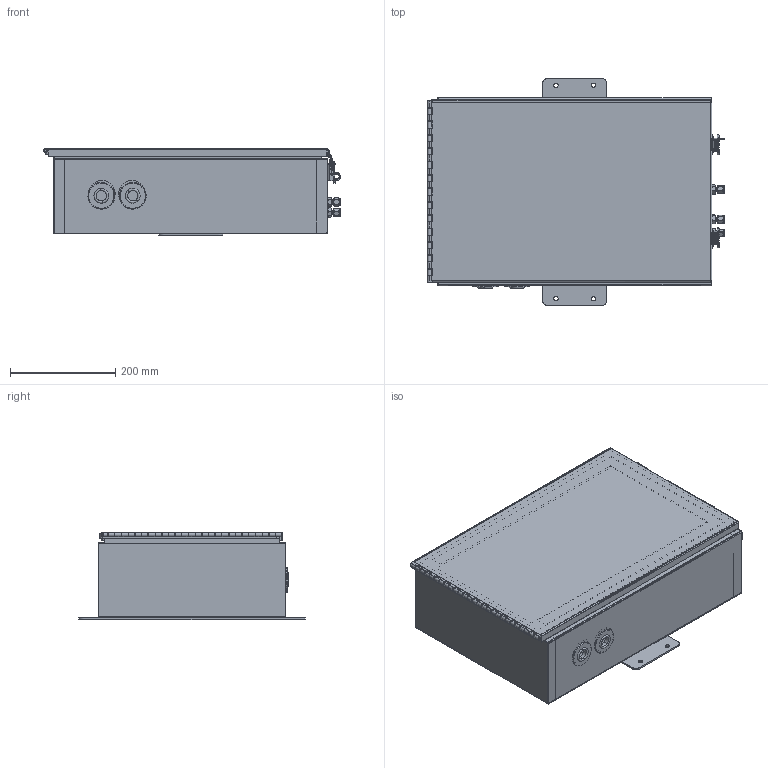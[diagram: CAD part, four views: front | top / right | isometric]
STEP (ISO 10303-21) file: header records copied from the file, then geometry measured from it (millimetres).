
FILE_DESCRIPTION (( 'STEP AP214' ), '1' );
FILE_NAME ('4CAS63.STEP', '2026-07-10T20:55:00', ( '' ), ( '' ), 'SwSTEP 2.0', 'SolidWorks 2024', '' );
FILE_SCHEMA (( 'AUTOMOTIVE_DESIGN' ));
Length unit declared in the file: inch
Products named in the file (34): 1RIV03; 2CAS94S^4CAS94; 2CAS94P^4CAS94; 1SCR21_91113A030; 2CAS94 - WRAP_WRAP; 2FOM14-O; 2FOM14-T; 4SPC01; 1LTC01; 2HIN03; 1RIV02; FHS-0518-20; 1GMT04; 2FOM14-R; 2CAS86; 2CAS94_COMPLETE; 2CAS87; 4CAS95; 2TUB05; 4CAS63; 2FOM14-A; 4CAS94; 1LTC03; 2CAS94 - Mount_COMPLETE; 1FIT06; 2FOM14-L; 2CAS94 - BOTTOM; 1NUT10_91831A030; 2CAS94 - TOP; 2SEL03; 2CAS94 - Support_COMPLETE; 2FOM14-F; 2CAS86P^4CAS95
Assembly tree (57 placements, depth 4):
  2CAS94S^4CAS94
  4CAS63
    4CAS94
      2CAS94_COMPLETE
        2CAS94 - WRAP_WRAP
        2CAS94 - BOTTOM
        2CAS94 - TOP
        2CAS94 - Mount_COMPLETE
        2CAS94 - Support_COMPLETE
        FHS-0518-20  x4
      2CAS94P^4CAS94
    4CAS95
      2CAS86
        2CAS86
        2CAS87
      2CAS86P^4CAS95
    1FIT06  x3
    1GMT04  x2
    1LTC01  x2
    1LTC03  x2
    1NUT10_91831A030  x4
    1RIV02  x4
    1RIV03  x4
    1SCR21_91113A030  x4
    2HIN03
    2TUB05  x3
    4SPC01  x4
    2FOM14-A
    2FOM14-F
    2FOM14-L
    2FOM14-O
    2FOM14-R
    2FOM14-T
    2SEL03
Bounding box: 563.87 x 430.05 x 165.46 mm (x, y, z)
Volume: 10017768.2 mm3; surface area: 3445282.8 mm2
Topology: 73 solids, 73 shells, 2418 faces, 5707 edges, 3508 vertices
Faces by surface type: plane 896, cylinder 866, cone 392, bspline 224, torus 40
Entity records: 39420 total; most frequent: CARTESIAN_POINT 9480, DIRECTION 6017, ORIENTED_EDGE 5894, EDGE_CURVE 2947, AXIS2_PLACEMENT_3D 2162, VERTEX_POINT 1820, LINE 1693, VECTOR 1693
